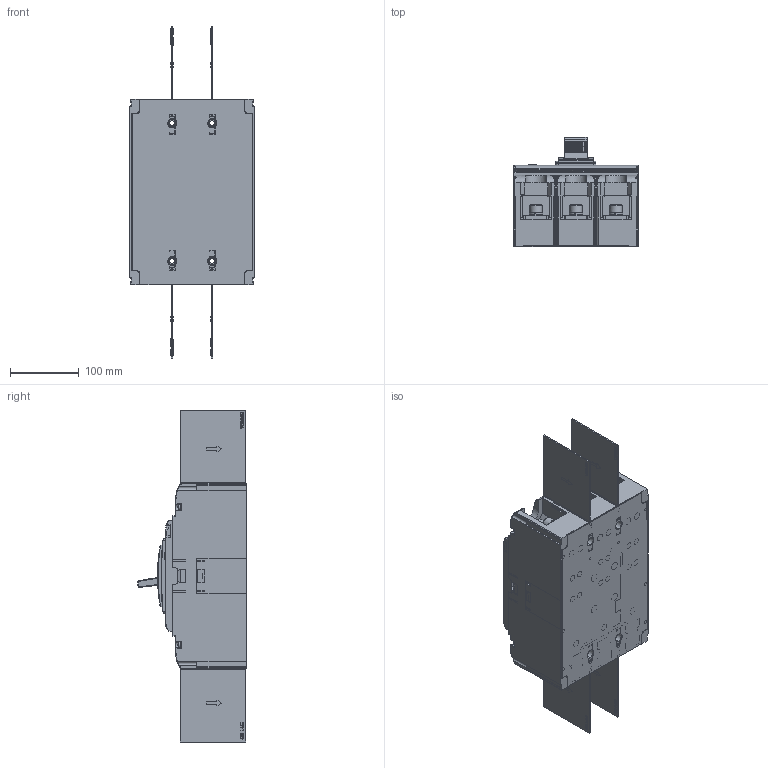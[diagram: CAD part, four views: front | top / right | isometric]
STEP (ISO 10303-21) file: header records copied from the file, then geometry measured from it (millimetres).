
FILE_DESCRIPTION((''),'2;1');
FILE_NAME('2TZD_256_6055_SW0001','2023-12-14T15:51:54',('zhenghaojing'),(''),'CREO PARAMETRIC BY PTC INC, 2020354','CREO PARAMETRIC BY PTC INC, 2020354','');
FILE_SCHEMA(('CONFIG_CONTROL_DESIGN'));
Products named in the file (1): 2TZD_256_6055_SW0001
Bounding box: 181.05 x 158.1 x 482 mm (x, y, z)
Volume: 2109278.2 mm3; surface area: 826467.4 mm2
Topology: 1 solids, 1 shells, 7057 faces, 19104 edges, 12225 vertices
Faces by surface type: plane 5105, cylinder 1356, bspline 222, sphere 124, cone 124, torus 82, extrusion 44
Entity records: 241960 total; most frequent: CARTESIAN_POINT 64723, ORIENTED_EDGE 38184, DIRECTION 34696, EDGE_CURVE 19092, VECTOR 15172, LINE 15128, VERTEX_POINT 12225, AXIS2_PLACEMENT_3D 9762
